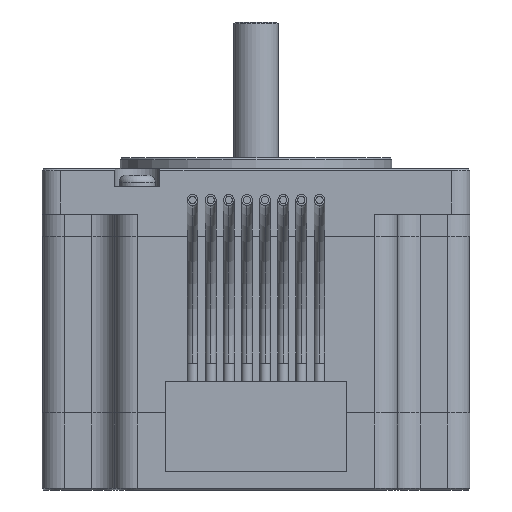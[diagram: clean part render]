
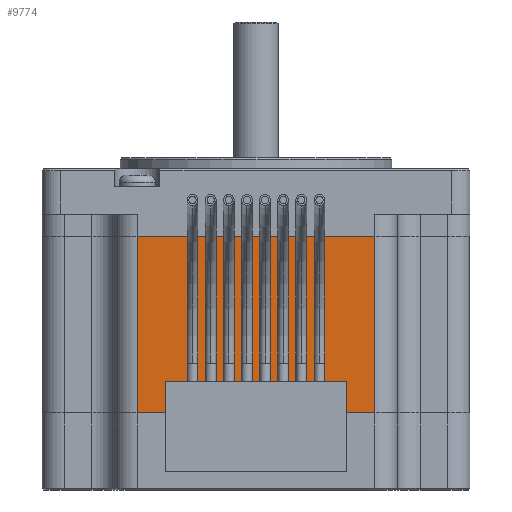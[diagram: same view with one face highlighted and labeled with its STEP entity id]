
A CAD part, front view. The second image highlights one B-rep face of the part: STEP entity #9774.
In plain terms, the highlighted planar face has unit normal (0, -1, 0).
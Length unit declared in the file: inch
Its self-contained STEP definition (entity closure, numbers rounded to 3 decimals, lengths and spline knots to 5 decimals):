
#4828 = VERTEX_POINT ( 'NONE', #13014 ) ;
#4830 = VERTEX_POINT ( 'NONE', #13013 ) ;
#4835 = EDGE_CURVE ( 'NONE', #4828, #4830, #13008, .T. ) ;
#9768 = ORIENTED_EDGE ( 'NONE', *, *, #4835, .T. ) ;
#9774 = ADVANCED_FACE ( 'NONE', ( #14762 ), #14800, .F. ) ;
#9775 = VERTEX_POINT ( 'NONE', #14739 ) ;
#9782 = EDGE_CURVE ( 'NONE', #10198, #9775, #14761, .T. ) ;
#9784 = EDGE_LOOP ( 'NONE', ( #9768, #10199, #17692, #9798 ) ) ;
#9786 = EDGE_CURVE ( 'NONE', #9775, #4830, #14815, .T. ) ;
#9798 = ORIENTED_EDGE ( 'NONE', *, *, #10211, .T. ) ;
#10198 = VERTEX_POINT ( 'NONE', #16107 ) ;
#10199 = ORIENTED_EDGE ( 'NONE', *, *, #9786, .F. ) ;
#10211 = EDGE_CURVE ( 'NONE', #10198, #4828, #16135, .T. ) ;
#12998 = DIRECTION ( 'NONE',  ( -1., 0., 0. ) ) ;
#12999 = VECTOR ( 'NONE', #12998, 39.37008 ) ;
#13000 = CARTESIAN_POINT ( 'NONE',  ( 0.655, -1.179, -0.375 ) ) ;
#13008 = LINE ( 'NONE', #13000, #12999 ) ;
#13013 = CARTESIAN_POINT ( 'NONE',  ( -0.655, -1.179, -0.375 ) ) ;
#13014 = CARTESIAN_POINT ( 'NONE',  ( 0.655, -1.179, -0.375 ) ) ;
#14739 = CARTESIAN_POINT ( 'NONE',  ( -0.655, -1.179, -1.347 ) ) ;
#14761 = LINE ( 'NONE', #14776, #14775 ) ;
#14762 = FACE_OUTER_BOUND ( 'NONE', #9784, .T. ) ;
#14774 = DIRECTION ( 'NONE',  ( -1., 0., 0. ) ) ;
#14775 = VECTOR ( 'NONE', #14774, 39.37008 ) ;
#14776 = CARTESIAN_POINT ( 'NONE',  ( 0.655, -1.179, -1.347 ) ) ;
#14796 = DIRECTION ( 'NONE',  ( -1., 0., 0. ) ) ;
#14797 = DIRECTION ( 'NONE',  ( 0., 1., 0. ) ) ;
#14798 = CARTESIAN_POINT ( 'NONE',  ( 0.655, -1.179, -1.347 ) ) ;
#14799 = AXIS2_PLACEMENT_3D ( 'NONE', #14798, #14797, #14796 ) ;
#14800 = PLANE ( 'NONE',  #14799 ) ;
#14809 = DIRECTION ( 'NONE',  ( 0., 0., 1. ) ) ;
#14810 = VECTOR ( 'NONE', #14809, 39.37008 ) ;
#14815 = LINE ( 'NONE', #14817, #14810 ) ;
#14817 = CARTESIAN_POINT ( 'NONE',  ( -0.655, -1.179, -1.347 ) ) ;
#16107 = CARTESIAN_POINT ( 'NONE',  ( 0.655, -1.179, -1.347 ) ) ;
#16132 = DIRECTION ( 'NONE',  ( 0., 0., 1. ) ) ;
#16133 = VECTOR ( 'NONE', #16132, 39.37008 ) ;
#16134 = CARTESIAN_POINT ( 'NONE',  ( 0.655, -1.179, -1.347 ) ) ;
#16135 = LINE ( 'NONE', #16134, #16133 ) ;
#17692 = ORIENTED_EDGE ( 'NONE', *, *, #9782, .F. ) ;
